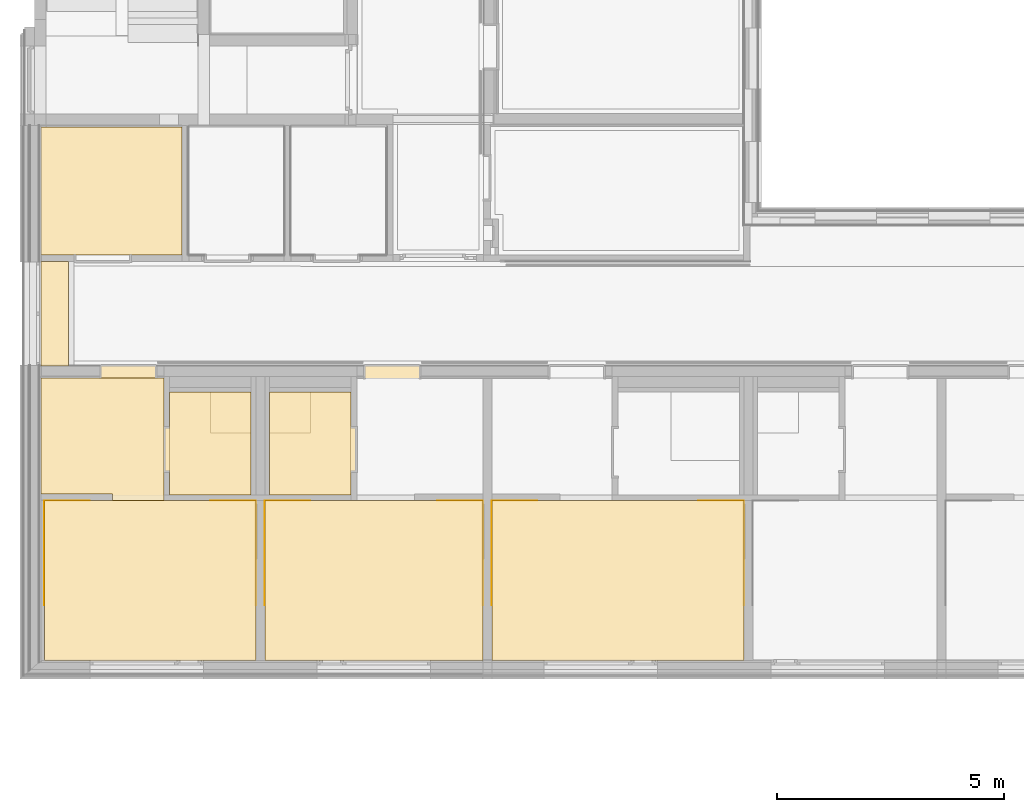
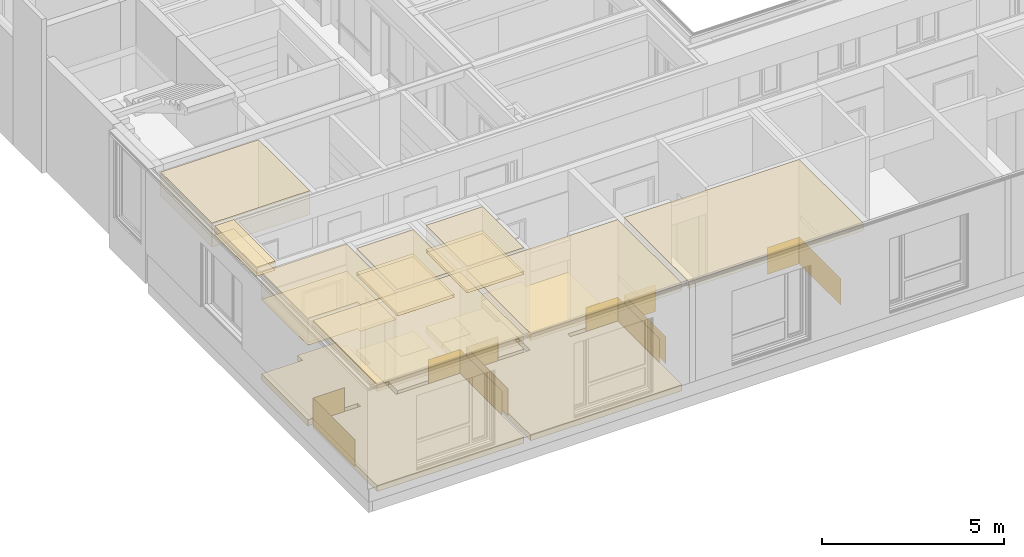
# One storey, part 158 of 207: 42 coverings.
"""IFC4 building model written with IfcOpenShell, lengths in metres."""

from ifc_helpers import new_model, entity, si_unit, converted_unit, derived_unit, frame, frame_2d, origin, origin_with_axes, place, context, subcontext, project, spatial, polyline, rectangle, outline, extrude, material, layer, layer_set, layer_usage, element, save


model = new_model("IFC4")

# Units and contexts
model_context = context("Model", 3, precision=1e-05, world=origin())
body_context = subcontext(model_context, "Body", "Model", "MODEL_VIEW")
ifc_project = project(units=[si_unit("LENGTHUNIT", "METRE"), si_unit("AREAUNIT", "SQUARE_METRE"), si_unit("VOLUMEUNIT", "CUBIC_METRE"), si_unit("MASSUNIT", "GRAM", prefix="KILO"), converted_unit("PLANEANGLEUNIT", "DEGREE", entity("IfcPlaneAngleMeasure", 0.0174532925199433), si_unit("PLANEANGLEUNIT", "RADIAN"), dimensions=[0, 0, 0, 0, 0, 0, 0]), derived_unit("THERMALTRANSMITTANCEUNIT", [(si_unit("POWERUNIT", "WATT"), 1), (si_unit("THERMODYNAMICTEMPERATUREUNIT", "KELVIN"), -1), (si_unit("LENGTHUNIT", "METRE"), -2)]), derived_unit("VOLUMETRICFLOWRATEUNIT", [(si_unit("LENGTHUNIT", "METRE"), 3), (converted_unit("TIMEUNIT", "hour", entity("IfcTimeMeasure", 3600.0), si_unit("TIMEUNIT", "SECOND"), dimensions=[0, 0, 1, 0, 0, 0, 0]), -1), (si_unit("LENGTHUNIT", "METRE"), -1)])], contexts=[model_context])

# Site, building, storey, space
site_placement = place(None, origin())
site = spatial("IfcSite", under=ifc_project, at=site_placement, Name="Psychiatrie Neubau Wunstorf", CompositionType="ELEMENT")
building_placement = place(site_placement, origin())
building = spatial("IfcBuilding", under=site, at=building_placement, Name="Neubau H2 Stationsgebäude", CompositionType="ELEMENT")
storey_placement = place(building_placement, frame((0.0, 0.0, -0.2)))
storey = spatial("IfcBuildingStorey", under=building, at=storey_placement, Name="H2 Ebene 0", CompositionType="ELEMENT", Elevation=-0.2)
space_1_placement = place(storey_placement, frame((0.169, 4.33074963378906, 0.0)))
space_1 = spatial("IfcSpace", under=storey, at=space_1_placement, Name="WUN-H2-E00-F04", CompositionType="ELEMENT")

# Coverings
ifc_material_1 = material()
ifc_layer_1 = layer(ifc_material_1, 0.036)
ifc_layer_set_1 = layer_set([ifc_layer_1])
ifc_layer_usage_1 = layer_usage(ifc_layer_set_1, "AXIS3", "POSITIVE", 0.0)
covering_1_placement = place(space_1_placement, frame((0.0, 0.0, 3.6)))
element("IfcCovering", 1, at=covering_1_placement, inside=space_1, material=ifc_layer_usage_1, Name="Gipsfaserplatten 2-lagig (BSK)", PredefinedType="CEILING", context=body_context, shape_type="SweptSolid", body=[
    extrude(rectangle(XDim=0.601, YDim=2.29425027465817, at=frame_2d((-0.3005, -1.14712513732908), x_axis=(-1.0, 1.51330233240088e-15))), frame((0.601, 0.0, 0.0), z_axis=(0.0, 0.0, -1.0), x_axis=(1.0, 0.0, 0.0)), (0.0, 0.0, 1.0), 0.036),
])
ifc_material_2 = material(Name="Installationshöhe")
ifc_layer_2 = layer(ifc_material_2, 0.164)
ifc_layer_set_2 = layer_set([ifc_layer_2])
ifc_layer_usage_2 = layer_usage(ifc_layer_set_2, "AXIS3", "POSITIVE", 0.0)
covering_2_placement = place(space_1_placement, frame((0.0, 0.0, 3.564)))
element("IfcCovering", 2, at=covering_2_placement, inside=space_1, material=ifc_layer_usage_2, Name="Gipsfaserplatten 2-lagig (BSK)", PredefinedType="CEILING", context=body_context, shape_type="SweptSolid", body=[
    extrude(rectangle(XDim=0.601, YDim=2.29425027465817, at=frame_2d((-0.3005, -1.14712513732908), x_axis=(-1.0, 1.51330233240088e-15))), frame((0.601, 0.0, 0.0), z_axis=(0.0, 0.0, -1.0), x_axis=(1.0, 0.0, 0.0)), (0.0, 0.0, 1.0), 0.164),
])
ifc_material_3 = material(Name="A1")
ifc_layer_3 = layer(ifc_material_3, 0.1)
ifc_layer_set_3 = layer_set([ifc_layer_3])
ifc_layer_usage_3 = layer_usage(ifc_layer_set_3, "AXIS3", "POSITIVE", 0.0)
covering_3_placement = place(space_1_placement, frame((0.0, 0.0, 3.4)))
element("IfcCovering", 3, at=covering_3_placement, inside=space_1, material=ifc_layer_usage_3, Name="Gipsfaserplatten 2-lagig (BSK)", PredefinedType="CEILING", context=body_context, shape_type="SweptSolid", body=[
    extrude(rectangle(XDim=0.601, YDim=2.29425027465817, at=frame_2d((-0.3005, -1.14712513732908), x_axis=(-1.0, 1.51330233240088e-15))), frame((0.601, 0.0, 0.0), z_axis=(0.0, 0.0, -1.0), x_axis=(1.0, 0.0, 0.0)), (0.0, 0.0, 1.0), 0.1),
])
ifc_material_4 = material(Name="D1")
ifc_layer_4 = layer(ifc_material_4, 0.001)
ifc_layer_set_4 = layer_set([ifc_layer_4])
ifc_layer_usage_4 = layer_usage(ifc_layer_set_4, "AXIS3", "POSITIVE", 0.0)
covering_4_placement = place(space_1_placement, frame((0.0, 0.0, 3.3)))
element("IfcCovering", 4, at=covering_4_placement, inside=space_1, material=ifc_layer_usage_4, Name="Gipsfaserplatten 2-lagig (BSK)", PredefinedType="CEILING", context=body_context, shape_type="SweptSolid", body=[
    extrude(rectangle(XDim=0.601, YDim=2.29425027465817, at=frame_2d((-0.3005, -1.14712513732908), x_axis=(-1.0, 1.51330233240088e-15))), frame((0.601, 0.0, 0.0), z_axis=(0.0, 0.0, -1.0), x_axis=(1.0, 0.0, 0.0)), (0.0, 0.0, 1.0), 0.001),
])

# Space
space_2_placement = place(storey_placement, frame((5.2, 1.48374963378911, 0.0)))
space_2 = spatial("IfcSpace", under=storey, at=space_2_placement, Name="WUN-H2-E00-024a", CompositionType="ELEMENT")

# Coverings
ifc_material_5 = material(Name="Fl1")
ifc_layer_5 = layer(ifc_material_5, 0.2)
ifc_layer_set_5 = layer_set([ifc_layer_5])
ifc_layer_usage_5 = layer_usage(ifc_layer_set_5, "AXIS3", "POSITIVE", 0.0)
covering_5_placement = place(space_2_placement, origin())
element("IfcCovering", 5, at=covering_5_placement, inside=space_2, material=ifc_layer_usage_5, Name="Fliesen", PredefinedType="FLOORING", context=body_context, shape_type="SweptSolid", body=[
    extrude(rectangle(XDim=0.125, YDim=1.01, at=frame_2d((-0.0625, -0.505), x_axis=(-1.0, 0.0))), frame((1.925, 1.50999999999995, 0.0), z_axis=(0.0, 0.0, 1.0), x_axis=(1.0, 0.0, 0.0)), (0.0, 0.0, 1.0), 0.2),
    extrude(outline(polyline([(0.0, 0.0), (1.8, 0.0), (1.8, 2.265), (0.90000000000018, 2.265), (0.90000000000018, 1.36499999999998), (0.0, 1.36499999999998), (0.0, 0.0)])), origin_with_axes(), (0.0, 0.0, 1.0), 0.2),
])
ifc_material_6 = material(Name="Fl2")
ifc_layer_6 = layer(ifc_material_6, 0.2)
ifc_layer_set_6 = layer_set([ifc_layer_6])
ifc_layer_usage_6 = layer_usage(ifc_layer_set_6, "AXIS3", "POSITIVE", 0.0)
covering_6_placement = place(space_2_placement, frame((0.0, 1.36499999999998, 0.0)))
element("IfcCovering", 6, at=covering_6_placement, inside=space_2, material=ifc_layer_usage_6, Name="Fliesen Mosaik", PredefinedType="FLOORING", context=body_context, shape_type="SweptSolid", body=[
    extrude(rectangle(XDim=0.899999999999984, YDim=0.90000000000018, at=frame_2d((0.45000000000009, -0.449999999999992), x_axis=(0.0, -1.0))), frame((0.0, 0.899999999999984, 0.0), z_axis=(0.0, 0.0, 1.0), x_axis=(1.0, 0.0, 0.0)), (0.0, 0.0, 1.0), 0.2),
])
ifc_material_7 = material()
ifc_layer_7 = layer(ifc_material_7, 0.036)
ifc_layer_set_7 = layer_set([ifc_layer_7])
ifc_layer_usage_7 = layer_usage(ifc_layer_set_7, "AXIS3", "POSITIVE", 0.0)
covering_7_placement = place(space_2_placement, frame((0.0, 0.0, 3.6)))
element("IfcCovering", 7, at=covering_7_placement, inside=space_2, material=ifc_layer_usage_7, Name="Gipsfaserplatten 2-lagig (BSK)", PredefinedType="CEILING", context=body_context, shape_type="SweptSolid", body=[
    extrude(rectangle(XDim=1.8, YDim=2.265, at=frame_2d((0.9, 1.1325), x_axis=(1.0, 0.0))), frame((0.0, 2.265, 0.0), z_axis=(0.0, 0.0, -1.0), x_axis=(1.0, 0.0, 0.0)), (0.0, 0.0, 1.0), 0.036),
])
ifc_material_8 = material(Name="Installationshöhe")
ifc_layer_8 = layer(ifc_material_8, 0.764)
ifc_layer_set_8 = layer_set([ifc_layer_8])
ifc_layer_usage_8 = layer_usage(ifc_layer_set_8, "AXIS3", "POSITIVE", 0.0)
covering_8_placement = place(space_2_placement, frame((0.0, 0.0, 3.564)))
element("IfcCovering", 8, at=covering_8_placement, inside=space_2, material=ifc_layer_usage_8, Name="Gipsfaserplatten 2-lagig (BSK)", PredefinedType="CEILING", context=body_context, shape_type="SweptSolid", body=[
    extrude(rectangle(XDim=1.8, YDim=2.265, at=frame_2d((0.9, 1.1325), x_axis=(1.0, 0.0))), frame((0.0, 2.265, 0.0), z_axis=(0.0, 0.0, -1.0), x_axis=(1.0, 0.0, 0.0)), (0.0, 0.0, 1.0), 0.764),
])
ifc_material_9 = material(Name="B")
ifc_layer_9 = layer(ifc_material_9, 0.1)
ifc_layer_set_9 = layer_set([ifc_layer_9])
ifc_layer_usage_9 = layer_usage(ifc_layer_set_9, "AXIS3", "POSITIVE", 0.0)
covering_9_placement = place(space_2_placement, frame((0.0, 0.0, 2.8)))
element("IfcCovering", 9, at=covering_9_placement, inside=space_2, material=ifc_layer_usage_9, Name="Gipskarton, imprägniert", PredefinedType="CEILING", context=body_context, shape_type="SweptSolid", body=[
    extrude(rectangle(XDim=1.8, YDim=2.265, at=frame_2d((0.9, 1.1325), x_axis=(1.0, 0.0))), frame((0.0, 2.265, 0.0), z_axis=(0.0, 0.0, -1.0), x_axis=(1.0, 0.0, 0.0)), (0.0, 0.0, 1.0), 0.1),
])
ifc_material_10 = material(Name="D1")
ifc_layer_10 = layer(ifc_material_10, 0.001)
ifc_layer_set_10 = layer_set([ifc_layer_10])
ifc_layer_usage_10 = layer_usage(ifc_layer_set_10, "AXIS3", "POSITIVE", 0.0)
covering_10_placement = place(space_2_placement, frame((0.0, 0.0, 2.7)))
element("IfcCovering", 10, at=covering_10_placement, inside=space_2, material=ifc_layer_usage_10, Name="Gipsfaserplatten 2-lagig (BSK)", PredefinedType="CEILING", context=body_context, shape_type="SweptSolid", body=[
    extrude(rectangle(XDim=1.8, YDim=2.265, at=frame_2d((0.9, 1.1325), x_axis=(1.0, 0.0))), frame((0.0, 2.265, 0.0), z_axis=(0.0, 0.0, -1.0), x_axis=(1.0, 0.0, 0.0)), (0.0, 0.0, 1.0), 0.001),
])

# Space
space_3_placement = place(storey_placement, frame((3.0, 1.48374963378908, 0.0)))
space_3 = spatial("IfcSpace", under=storey, at=space_3_placement, Name="WUN-H2-E00-025a", CompositionType="ELEMENT")

# Coverings
ifc_material_11 = material(Name="Fl1")
ifc_layer_11 = layer(ifc_material_11, 0.2)
ifc_layer_set_11 = layer_set([ifc_layer_11])
ifc_layer_usage_11 = layer_usage(ifc_layer_set_11, "AXIS3", "POSITIVE", 0.0)
covering_11_placement = place(space_3_placement, frame((-0.125, 0.0, 0.0)))
element("IfcCovering", 11, at=covering_11_placement, inside=space_3, material=ifc_layer_usage_11, Name="Fliesen", PredefinedType="FLOORING", context=body_context, shape_type="SweptSolid", body=[
    extrude(rectangle(XDim=0.125, YDim=1.01, at=frame_2d((0.0625, 0.505), x_axis=(1.0, 0.0))), frame((0.0, 0.49999999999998, 0.0), z_axis=(0.0, 0.0, 1.0), x_axis=(1.0, 0.0, 0.0)), (0.0, 0.0, 1.0), 0.2),
    extrude(outline(polyline([(0.0, 0.0), (1.8, 0.0), (1.8, 1.365), (0.89999999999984, 1.365), (0.89999999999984, 2.265), (0.0, 2.265), (0.0, 0.0)])), frame((0.125, 0.0, 0.0), z_axis=(0.0, 0.0, 1.0), x_axis=(1.0, 0.0, 0.0)), (0.0, 0.0, 1.0), 0.2),
])
ifc_material_12 = material(Name="Fl2")
ifc_layer_12 = layer(ifc_material_12, 0.2)
ifc_layer_set_12 = layer_set([ifc_layer_12])
ifc_layer_usage_12 = layer_usage(ifc_layer_set_12, "AXIS3", "POSITIVE", 0.0)
covering_12_placement = place(space_3_placement, frame((0.89999999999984, 1.365, 0.0)))
element("IfcCovering", 12, at=covering_12_placement, inside=space_3, material=ifc_layer_usage_12, Name="Fliesen Mosaik", PredefinedType="FLOORING", context=body_context, shape_type="SweptSolid", body=[
    extrude(rectangle(XDim=0.9, YDim=0.9, at=frame_2d((0.45, -0.45), x_axis=(0.0, -1.0))), frame((0.0, 0.9, 0.0), z_axis=(0.0, 0.0, 1.0), x_axis=(1.0, 0.0, 0.0)), (0.0, 0.0, 1.0), 0.2),
])
ifc_material_13 = material()
ifc_layer_13 = layer(ifc_material_13, 0.036)
ifc_layer_set_13 = layer_set([ifc_layer_13])
ifc_layer_usage_13 = layer_usage(ifc_layer_set_13, "AXIS3", "POSITIVE", 0.0)
covering_13_placement = place(space_3_placement, frame((0.0, 0.0, 3.6)))
element("IfcCovering", 13, at=covering_13_placement, inside=space_3, material=ifc_layer_usage_13, Name="Gipsfaserplatten 2-lagig (BSK)", PredefinedType="CEILING", context=body_context, shape_type="SweptSolid", body=[
    extrude(rectangle(XDim=2.265, YDim=1.8, at=frame_2d((0.9, -1.1325), x_axis=(0.0, -1.0))), frame((0.0, 0.0, 0.0), z_axis=(0.0, 0.0, -1.0), x_axis=(1.0, 0.0, 0.0)), (0.0, 0.0, 1.0), 0.036),
])
ifc_material_14 = material(Name="Installationshöhe")
ifc_layer_14 = layer(ifc_material_14, 0.764)
ifc_layer_set_14 = layer_set([ifc_layer_14])
ifc_layer_usage_14 = layer_usage(ifc_layer_set_14, "AXIS3", "POSITIVE", 0.0)
covering_14_placement = place(space_3_placement, frame((0.0, 0.0, 3.564)))
element("IfcCovering", 14, at=covering_14_placement, inside=space_3, material=ifc_layer_usage_14, Name="Gipsfaserplatten 2-lagig (BSK)", PredefinedType="CEILING", context=body_context, shape_type="SweptSolid", body=[
    extrude(rectangle(XDim=2.265, YDim=1.8, at=frame_2d((0.9, -1.1325), x_axis=(0.0, -1.0))), frame((0.0, 0.0, 0.0), z_axis=(0.0, 0.0, -1.0), x_axis=(1.0, 0.0, 0.0)), (0.0, 0.0, 1.0), 0.764),
])
ifc_material_15 = material(Name="B")
ifc_layer_15 = layer(ifc_material_15, 0.1)
ifc_layer_set_15 = layer_set([ifc_layer_15])
ifc_layer_usage_15 = layer_usage(ifc_layer_set_15, "AXIS3", "POSITIVE", 0.0)
covering_15_placement = place(space_3_placement, frame((0.0, 0.0, 2.8)))
element("IfcCovering", 15, at=covering_15_placement, inside=space_3, material=ifc_layer_usage_15, Name="Gipskarton, imprägniert", PredefinedType="CEILING", context=body_context, shape_type="SweptSolid", body=[
    extrude(rectangle(XDim=2.265, YDim=1.8, at=frame_2d((0.9, -1.1325), x_axis=(0.0, -1.0))), frame((0.0, 0.0, 0.0), z_axis=(0.0, 0.0, -1.0), x_axis=(1.0, 0.0, 0.0)), (0.0, 0.0, 1.0), 0.1),
])
ifc_material_16 = material(Name="D1")
ifc_layer_16 = layer(ifc_material_16, 0.001)
ifc_layer_set_16 = layer_set([ifc_layer_16])
ifc_layer_usage_16 = layer_usage(ifc_layer_set_16, "AXIS3", "POSITIVE", 0.0)
covering_16_placement = place(space_3_placement, frame((0.0, 0.0, 2.7)))
element("IfcCovering", 16, at=covering_16_placement, inside=space_3, material=ifc_layer_usage_16, Name="Gipsfaserplatten 2-lagig (BSK)", PredefinedType="CEILING", context=body_context, shape_type="SweptSolid", body=[
    extrude(rectangle(XDim=2.265, YDim=1.8, at=frame_2d((0.9, -1.1325), x_axis=(0.0, -1.0))), frame((0.0, 0.0, 0.0), z_axis=(0.0, 0.0, -1.0), x_axis=(1.0, 0.0, 0.0)), (0.0, 0.0, 1.0), 0.001),
])

# Space
space_4_placement = place(storey_placement, frame((0.168999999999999, 6.77499990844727, 0.0)))
space_4 = spatial("IfcSpace", under=storey, at=space_4_placement, Name="WUN-H2-E00-026", CompositionType="ELEMENT")

# Coverings
ifc_material_17 = material()
ifc_layer_17 = layer(ifc_material_17, 0.036)
ifc_layer_set_17 = layer_set([ifc_layer_17])
ifc_layer_usage_17 = layer_usage(ifc_layer_set_17, "AXIS3", "POSITIVE", 0.0)
covering_17_placement = place(space_4_placement, frame((0.0, 0.0, 3.6)))
element("IfcCovering", 17, at=covering_17_placement, inside=space_4, material=ifc_layer_usage_17, Name="Gipsfaserplatten 2-lagig (BSK)", PredefinedType="CEILING", context=body_context, shape_type="SweptSolid", body=[
    extrude(rectangle(XDim=3.106, YDim=2.8199999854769, at=frame_2d((-1.553, -1.40999999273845), x_axis=(-1.0, 0.0))), frame((3.106, 0.0, 0.0), z_axis=(0.0, 0.0, -1.0), x_axis=(1.0, 0.0, 0.0)), (0.0, 0.0, 1.0), 0.036),
])
ifc_material_18 = material(Name="Installationshöhe")
ifc_layer_18 = layer(ifc_material_18, 0.764)
ifc_layer_set_18 = layer_set([ifc_layer_18])
ifc_layer_usage_18 = layer_usage(ifc_layer_set_18, "AXIS3", "POSITIVE", 0.0)
covering_18_placement = place(space_4_placement, frame((0.0, 0.0, 3.564)))
element("IfcCovering", 18, at=covering_18_placement, inside=space_4, material=ifc_layer_usage_18, Name="Gipsfaserplatten 2-lagig (BSK)", PredefinedType="CEILING", context=body_context, shape_type="SweptSolid", body=[
    extrude(rectangle(XDim=3.106, YDim=2.8199999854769, at=frame_2d((-1.553, -1.40999999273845), x_axis=(-1.0, 0.0))), frame((3.106, 0.0, 0.0), z_axis=(0.0, 0.0, -1.0), x_axis=(1.0, 0.0, 0.0)), (0.0, 0.0, 1.0), 0.764),
])

# Space
space_5_placement = place(storey_placement, frame((0.168999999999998, -2.16399999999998, 0.0)))
space_5 = spatial("IfcSpace", under=storey, at=space_5_placement, Name="WUN-H2-E00-025", CompositionType="ELEMENT")

# Coverings
ifc_material_19 = material(Name="84")
ifc_layer_19 = layer(ifc_material_19, 0.001)
ifc_layer_set_19 = layer_set([ifc_layer_19])
ifc_layer_usage_19 = layer_usage(ifc_layer_set_19, "AXIS3", "POSITIVE", 0.0)
covering_19_placement = place(space_5_placement, frame((0.074999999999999, 1.22274963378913, 0.1)))
element("IfcCovering", 19, at=covering_19_placement, inside=space_5, material=ifc_layer_usage_19, Name="Acrobyn", PredefinedType="CLADDING", context=body_context, shape_type="SweptSolid", body=[
    extrude(rectangle(XDim=1.0, YDim=0.9, at=frame_2d((0.5, -0.45), x_axis=(1.0, 0.0))), frame((1.0, 2.3, 0.0), z_axis=(0.0, -1.0, 0.0), x_axis=(-1.0, 0.0, 0.0)), (0.0, 0.0, 1.0), 0.001),
    extrude(rectangle(XDim=2.3, YDim=0.9, at=frame_2d((1.15, -0.45), x_axis=(1.0, 0.0))), frame((0.0, 2.3, 0.0), z_axis=(1.0, 0.0, 0.0), x_axis=(0.0, -1.0, 0.0)), (0.0, 0.0, 1.0), 0.001),
])
ifc_material_20 = material(Name="84")
ifc_layer_20 = layer(ifc_material_20, 0.001)
ifc_layer_set_20 = layer_set([ifc_layer_20])
ifc_layer_usage_20 = layer_usage(ifc_layer_set_20, "AXIS3", "POSITIVE", 0.0)
covering_20_placement = place(space_5_placement, frame((3.731, 1.22274957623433, 0.1)))
element("IfcCovering", 20, at=covering_20_placement, inside=space_5, material=ifc_layer_usage_20, Name="Acrobyn", PredefinedType="CLADDING", context=body_context, shape_type="SweptSolid", body=[
    extrude(rectangle(XDim=0.9, YDim=1.0, at=frame_2d((-0.5, -0.45), x_axis=(0.0, -1.0))), frame((0.0, 2.3, 0.0), z_axis=(4.54747350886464e-16, -1.0, 0.0), x_axis=(-1.0, -4.54747350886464e-16, 0.0)), (0.0, 0.0, 1.0), 0.001),
    extrude(rectangle(XDim=0.9, YDim=2.3, at=frame_2d((-1.15, -0.45), x_axis=(0.0, -1.0))), frame((1.0, 2.3, 0.0), z_axis=(-1.0, 0.0, 0.0), x_axis=(0.0, 1.0, 0.0)), (0.0, 0.0, 1.0), 0.001),
])
ifc_material_21 = material(Name="Ku1")
ifc_layer_21 = layer(ifc_material_21, 0.2)
ifc_layer_set_21 = layer_set([ifc_layer_21])
ifc_layer_usage_21 = layer_usage(ifc_layer_set_21, "AXIS3", "POSITIVE", 0.0)
covering_21_placement = place(space_5_placement, origin())
element("IfcCovering", 21, at=covering_21_placement, inside=space_5, material=ifc_layer_usage_21, Name="PVC Bahnenware Holzoptik", PredefinedType="FLOORING", context=body_context, shape_type="SweptSolid", body=[
    extrude(rectangle(XDim=0.271499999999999, YDim=1.26, at=frame_2d((-0.63, 0.13575), x_axis=(0.0, 1.0))), frame((2.556, 6.22324963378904, 0.0), z_axis=(0.0, 0.0, 1.0), x_axis=(1.0, 0.0, 0.0)), (0.0, 0.0, 1.0), 0.2),
    extrude(outline(polyline([(1.575, 3.52274963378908), (0.0749999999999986, 3.52274963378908), (0.0749999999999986, 0.0), (4.731, 0.0), (4.731, 3.52274963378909), (2.706, 3.52274963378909), (2.706, 6.22324963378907), (0.0, 6.22324963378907), (0.0, 3.67274963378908), (1.575, 3.67274963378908), (1.575, 3.52274963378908)])), origin_with_axes(), (0.0, 0.0, 1.0), 0.2),
])
ifc_material_22 = material()
ifc_layer_22 = layer(ifc_material_22, 0.036)
ifc_layer_set_22 = layer_set([ifc_layer_22])
ifc_layer_usage_22 = layer_usage(ifc_layer_set_22, "AXIS3", "POSITIVE", 0.0)
covering_22_placement = place(space_5_placement, frame((0.0, 3.52274963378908, 3.6)))
element("IfcCovering", 22, at=covering_22_placement, inside=space_5, material=ifc_layer_usage_22, Name="Gipsfaserplatten 2-lagig (BSK)", PredefinedType="CEILING", context=body_context, shape_type="SweptSolid", body=[
    extrude(outline(polyline([(1.575, 2.70049999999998), (1.575, 2.55049999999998), (0.0, 2.55049999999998), (0.0, 0.0), (2.706, 0.0), (2.706, 2.70049999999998), (1.575, 2.70049999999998)])), frame((0.0, 2.70049999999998, 0.0), z_axis=(0.0, 0.0, -1.0), x_axis=(1.0, 0.0, 0.0)), (0.0, 0.0, 1.0), 0.036),
])
ifc_material_23 = material(Name="Installationshöhe")
ifc_layer_23 = layer(ifc_material_23, 0.764)
ifc_layer_set_23 = layer_set([ifc_layer_23])
ifc_layer_usage_23 = layer_usage(ifc_layer_set_23, "AXIS3", "POSITIVE", 0.0)
covering_23_placement = place(space_5_placement, frame((0.0, 3.52274963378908, 3.564)))
element("IfcCovering", 23, at=covering_23_placement, inside=space_5, material=ifc_layer_usage_23, Name="Gipsfaserplatten 2-lagig (BSK)", PredefinedType="CEILING", context=body_context, shape_type="SweptSolid", body=[
    extrude(outline(polyline([(1.575, 2.70049999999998), (1.575, 2.55049999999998), (0.0, 2.55049999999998), (0.0, 0.0), (2.706, 0.0), (2.706, 2.70049999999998), (1.575, 2.70049999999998)])), frame((0.0, 2.70049999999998, 0.0), z_axis=(0.0, 0.0, -1.0), x_axis=(1.0, 0.0, 0.0)), (0.0, 0.0, 1.0), 0.764),
])
ifc_material_24 = material(Name="A1")
ifc_layer_24 = layer(ifc_material_24, 0.1)
ifc_layer_set_24 = layer_set([ifc_layer_24])
ifc_layer_usage_24 = layer_usage(ifc_layer_set_24, "AXIS3", "POSITIVE", 0.0)
covering_24_placement = place(space_5_placement, frame((0.0, 3.52274963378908, 2.8)))
element("IfcCovering", 24, at=covering_24_placement, inside=space_5, material=ifc_layer_usage_24, Name="Gipsfaserplatten 2-lagig (BSK)", PredefinedType="CEILING", context=body_context, shape_type="SweptSolid", body=[
    extrude(outline(polyline([(1.575, 2.70049999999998), (1.575, 2.55049999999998), (0.0, 2.55049999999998), (0.0, 0.0), (2.706, 0.0), (2.706, 2.70049999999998), (1.575, 2.70049999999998)])), frame((0.0, 2.70049999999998, 0.0), z_axis=(0.0, 0.0, -1.0), x_axis=(1.0, 0.0, 0.0)), (0.0, 0.0, 1.0), 0.1),
])
ifc_material_25 = material(Name="D1")
ifc_layer_25 = layer(ifc_material_25, 0.001)
ifc_layer_set_25 = layer_set([ifc_layer_25])
ifc_layer_usage_25 = layer_usage(ifc_layer_set_25, "AXIS3", "POSITIVE", 0.0)
covering_25_placement = place(space_5_placement, frame((0.0, 3.52274963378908, 2.7)))
element("IfcCovering", 25, at=covering_25_placement, inside=space_5, material=ifc_layer_usage_25, Name="Gipsfaserplatten 2-lagig (BSK)", PredefinedType="CEILING", context=body_context, shape_type="SweptSolid", body=[
    extrude(outline(polyline([(1.575, 2.70049999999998), (1.575, 2.55049999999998), (0.0, 2.55049999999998), (0.0, 0.0), (2.706, 0.0), (2.706, 2.70049999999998), (1.575, 2.70049999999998)])), frame((0.0, 2.70049999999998, 0.0), z_axis=(0.0, 0.0, -1.0), x_axis=(1.0, 0.0, 0.0)), (0.0, 0.0, 1.0), 0.001),
])
ifc_material_26 = material()
ifc_layer_26 = layer(ifc_material_26, 0.036)
ifc_layer_set_26 = layer_set([ifc_layer_26])
ifc_layer_usage_26 = layer_usage(ifc_layer_set_26, "AXIS3", "POSITIVE", 0.0)
covering_26_placement = place(space_5_placement, frame((0.074999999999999, 0.0, 3.6)))
element("IfcCovering", 26, at=covering_26_placement, inside=space_5, material=ifc_layer_usage_26, Name="Gipsfaserplatten 2-lagig (BSK)", PredefinedType="CEILING", context=body_context, shape_type="SweptSolid", body=[
    extrude(rectangle(XDim=4.656, YDim=3.52274963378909, at=frame_2d((2.328, 1.76137481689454), x_axis=(1.0, -2.24638940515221e-15))), frame((0.0, 3.52274963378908, 0.0), z_axis=(0.0, 0.0, -1.0), x_axis=(1.0, 0.0, 0.0)), (0.0, 0.0, 1.0), 0.036),
])
ifc_material_27 = material(Name="Installationshöhe")
ifc_layer_27 = layer(ifc_material_27, 0.114)
ifc_layer_set_27 = layer_set([ifc_layer_27])
ifc_layer_usage_27 = layer_usage(ifc_layer_set_27, "AXIS3", "POSITIVE", 0.0)
covering_27_placement = place(space_5_placement, frame((0.074999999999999, 0.0, 3.564)))
element("IfcCovering", 27, at=covering_27_placement, inside=space_5, material=ifc_layer_usage_27, Name="Gipsfaserplatten 2-lagig (BSK)", PredefinedType="CEILING", context=body_context, shape_type="SweptSolid", body=[
    extrude(rectangle(XDim=4.656, YDim=3.52274963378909, at=frame_2d((2.328, 1.76137481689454), x_axis=(1.0, -2.24638940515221e-15))), frame((0.0, 3.52274963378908, 0.0), z_axis=(0.0, 0.0, -1.0), x_axis=(1.0, 0.0, 0.0)), (0.0, 0.0, 1.0), 0.114),
])
ifc_material_28 = material(Name="A1")
ifc_layer_28 = layer(ifc_material_28, 0.1)
ifc_layer_set_28 = layer_set([ifc_layer_28])
ifc_layer_usage_28 = layer_usage(ifc_layer_set_28, "AXIS3", "POSITIVE", 0.0)
covering_28_placement = place(space_5_placement, frame((0.074999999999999, 0.0, 3.45)))
element("IfcCovering", 28, at=covering_28_placement, inside=space_5, material=ifc_layer_usage_28, Name="Gipsfaserplatten 2-lagig (BSK)", PredefinedType="CEILING", context=body_context, shape_type="SweptSolid", body=[
    extrude(rectangle(XDim=4.656, YDim=3.52274963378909, at=frame_2d((2.328, 1.76137481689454), x_axis=(1.0, -2.24638940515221e-15))), frame((0.0, 3.52274963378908, 0.0), z_axis=(0.0, 0.0, -1.0), x_axis=(1.0, 0.0, 0.0)), (0.0, 0.0, 1.0), 0.1),
])
ifc_material_29 = material(Name="D1")
ifc_layer_29 = layer(ifc_material_29, 0.001)
ifc_layer_set_29 = layer_set([ifc_layer_29])
ifc_layer_usage_29 = layer_usage(ifc_layer_set_29, "AXIS3", "POSITIVE", 0.0)
covering_29_placement = place(space_5_placement, frame((0.074999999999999, 0.0, 3.35)))
element("IfcCovering", 29, at=covering_29_placement, inside=space_5, material=ifc_layer_usage_29, Name="Gipsfaserplatten 2-lagig (BSK)", PredefinedType="CEILING", context=body_context, shape_type="SweptSolid", body=[
    extrude(rectangle(XDim=4.656, YDim=3.52274963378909, at=frame_2d((2.328, 1.76137481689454), x_axis=(1.0, -2.24638940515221e-15))), frame((0.0, 3.52274963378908, 0.0), z_axis=(0.0, 0.0, -1.0), x_axis=(1.0, 0.0, 0.0)), (0.0, 0.0, 1.0), 0.001),
])

# Space
space_6_placement = place(storey_placement, frame((5.1, -2.16399999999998, 0.0)))
space_6 = spatial("IfcSpace", under=storey, at=space_6_placement, Name="WUN-H2-E00-024", CompositionType="ELEMENT")

# Coverings
ifc_material_30 = material(Name="84")
ifc_layer_30 = layer(ifc_material_30, 0.001)
ifc_layer_set_30 = layer_set([ifc_layer_30])
ifc_layer_usage_30 = layer_usage(ifc_layer_set_30, "AXIS3", "POSITIVE", 0.0)
covering_30_placement = place(space_6_placement, frame((0.0, 1.22274963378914, 0.1)))
element("IfcCovering", 30, at=covering_30_placement, inside=space_6, material=ifc_layer_usage_30, Name="Acrobyn", PredefinedType="CLADDING", context=body_context, shape_type="SweptSolid", body=[
    extrude(rectangle(XDim=1.0, YDim=0.9, at=frame_2d((0.5, -0.45), x_axis=(1.0, 0.0))), frame((1.0, 2.3, 0.0), z_axis=(0.0, -1.0, 0.0), x_axis=(-1.0, 0.0, 0.0)), (0.0, 0.0, 1.0), 0.001),
    extrude(rectangle(XDim=2.3, YDim=0.9, at=frame_2d((1.15, -0.45), x_axis=(1.0, 0.0))), frame((0.0, 2.3, 0.0), z_axis=(1.0, 0.0, 0.0), x_axis=(0.0, -1.0, 0.0)), (0.0, 0.0, 1.0), 0.001),
])
ifc_material_31 = material(Name="84")
ifc_layer_31 = layer(ifc_material_31, 0.001)
ifc_layer_set_31 = layer_set([ifc_layer_31])
ifc_layer_usage_31 = layer_usage(ifc_layer_set_31, "AXIS3", "POSITIVE", 0.0)
covering_31_placement = place(space_6_placement, frame((3.8, 1.22274957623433, 0.1)))
element("IfcCovering", 31, at=covering_31_placement, inside=space_6, material=ifc_layer_usage_31, Name="Acrobyn", PredefinedType="CLADDING", context=body_context, shape_type="SweptSolid", body=[
    extrude(rectangle(XDim=0.9, YDim=1.0, at=frame_2d((-0.5, -0.45), x_axis=(0.0, -1.0))), frame((0.0, 2.3, 0.0), z_axis=(4.54747350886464e-16, -1.0, 0.0), x_axis=(-1.0, -4.54747350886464e-16, 0.0)), (0.0, 0.0, 1.0), 0.001),
    extrude(rectangle(XDim=0.9, YDim=2.3, at=frame_2d((-1.15, -0.45), x_axis=(0.0, -1.0))), frame((1.0, 2.3, 0.0), z_axis=(-1.0, 0.0, 0.0), x_axis=(0.0, 1.0, 0.0)), (0.0, 0.0, 1.0), 0.001),
])
ifc_material_32 = material(Name="Ku1")
ifc_layer_32 = layer(ifc_material_32, 0.2)
ifc_layer_set_32 = layer_set([ifc_layer_32])
ifc_layer_usage_32 = layer_usage(ifc_layer_set_32, "AXIS3", "POSITIVE", 0.0)
covering_32_placement = place(space_6_placement, origin())
element("IfcCovering", 32, at=covering_32_placement, inside=space_6, material=ifc_layer_usage_32, Name="PVC Bahnenware Holzoptik", PredefinedType="FLOORING", context=body_context, shape_type="SweptSolid", body=[
    extrude(rectangle(XDim=0.271499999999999, YDim=1.26, at=frame_2d((-0.63, 0.13575), x_axis=(0.0, 1.0))), frame((3.435, 6.22324963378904, 0.0), z_axis=(0.0, 0.0, 1.0), x_axis=(1.0, 0.0, 0.0)), (0.0, 0.0, 1.0), 0.2),
    extrude(outline(polyline([(3.3, 3.67274963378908), (4.8, 3.67274963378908), (4.8, 6.22324963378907), (2.025, 6.22324963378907), (2.025, 3.52274963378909), (0.0, 3.52274963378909), (0.0, 0.0), (4.8, 0.0), (4.8, 3.52274963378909), (3.29999999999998, 3.52274963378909), (3.3, 3.67274963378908)])), origin_with_axes(), (0.0, 0.0, 1.0), 0.2),
])
ifc_material_33 = material()
ifc_layer_33 = layer(ifc_material_33, 0.036)
ifc_layer_set_33 = layer_set([ifc_layer_33])
ifc_layer_usage_33 = layer_usage(ifc_layer_set_33, "AXIS3", "POSITIVE", 0.0)
covering_33_placement = place(space_6_placement, frame((0.0, 0.0, 3.6)))
element("IfcCovering", 33, at=covering_33_placement, inside=space_6, material=ifc_layer_usage_33, Name="Gipsfaserplatten 2-lagig (BSK)", PredefinedType="CEILING", context=body_context, shape_type="SweptSolid", body=[
    extrude(rectangle(XDim=3.52274963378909, YDim=4.8, at=frame_2d((-2.4, 1.76137481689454), x_axis=(0.0, 1.0))), frame((4.8, 3.52274963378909, 0.0), z_axis=(0.0, 0.0, -1.0), x_axis=(1.0, 0.0, 0.0)), (0.0, 0.0, 1.0), 0.036),
])
ifc_material_34 = material(Name="Installationshöhe")
ifc_layer_34 = layer(ifc_material_34, 0.114)
ifc_layer_set_34 = layer_set([ifc_layer_34])
ifc_layer_usage_34 = layer_usage(ifc_layer_set_34, "AXIS3", "POSITIVE", 0.0)
covering_34_placement = place(space_6_placement, frame((0.0, 0.0, 3.564)))
element("IfcCovering", 34, at=covering_34_placement, inside=space_6, material=ifc_layer_usage_34, Name="Gipsfaserplatten 2-lagig (BSK)", PredefinedType="CEILING", context=body_context, shape_type="SweptSolid", body=[
    extrude(rectangle(XDim=3.52274963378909, YDim=4.8, at=frame_2d((-2.4, 1.76137481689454), x_axis=(0.0, 1.0))), frame((4.8, 3.52274963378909, 0.0), z_axis=(0.0, 0.0, -1.0), x_axis=(1.0, 0.0, 0.0)), (0.0, 0.0, 1.0), 0.114),
])
ifc_material_35 = material(Name="A1")
ifc_layer_35 = layer(ifc_material_35, 0.1)
ifc_layer_set_35 = layer_set([ifc_layer_35])
ifc_layer_usage_35 = layer_usage(ifc_layer_set_35, "AXIS3", "POSITIVE", 0.0)
covering_35_placement = place(space_6_placement, frame((0.0, 0.0, 3.45)))
element("IfcCovering", 35, at=covering_35_placement, inside=space_6, material=ifc_layer_usage_35, Name="Gipsfaserplatten 2-lagig (BSK)", PredefinedType="CEILING", context=body_context, shape_type="SweptSolid", body=[
    extrude(rectangle(XDim=3.52274963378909, YDim=4.8, at=frame_2d((-2.4, 1.76137481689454), x_axis=(0.0, 1.0))), frame((4.8, 3.52274963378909, 0.0), z_axis=(0.0, 0.0, -1.0), x_axis=(1.0, 0.0, 0.0)), (0.0, 0.0, 1.0), 0.1),
])
ifc_material_36 = material(Name="D1")
ifc_layer_36 = layer(ifc_material_36, 0.001)
ifc_layer_set_36 = layer_set([ifc_layer_36])
ifc_layer_usage_36 = layer_usage(ifc_layer_set_36, "AXIS3", "POSITIVE", 0.0)
covering_36_placement = place(space_6_placement, frame((0.0, 0.0, 3.35)))
element("IfcCovering", 36, at=covering_36_placement, inside=space_6, material=ifc_layer_usage_36, Name="Gipsfaserplatten 2-lagig (BSK)", PredefinedType="CEILING", context=body_context, shape_type="SweptSolid", body=[
    extrude(rectangle(XDim=3.52274963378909, YDim=4.8, at=frame_2d((-2.4, 1.76137481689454), x_axis=(0.0, 1.0))), frame((4.8, 3.52274963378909, 0.0), z_axis=(0.0, 0.0, -1.0), x_axis=(1.0, 0.0, 0.0)), (0.0, 0.0, 1.0), 0.001),
])

# Space
space_7_placement = place(storey_placement, frame((10.1, -2.16399999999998, 0.0)))
space_7 = spatial("IfcSpace", under=storey, at=space_7_placement, Name="WUN-H2-E00-023", CompositionType="ELEMENT")

# Coverings
ifc_material_37 = material(Name="84")
ifc_layer_37 = layer(ifc_material_37, 0.001)
ifc_layer_set_37 = layer_set([ifc_layer_37])
ifc_layer_usage_37 = layer_usage(ifc_layer_set_37, "AXIS3", "POSITIVE", 0.0)
covering_37_placement = place(space_7_placement, frame((0.0, 1.22274963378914, 0.1)))
element("IfcCovering", 37, at=covering_37_placement, inside=space_7, material=ifc_layer_usage_37, Name="Acrobyn", PredefinedType="CLADDING", context=body_context, shape_type="SweptSolid", body=[
    extrude(rectangle(XDim=1.0, YDim=0.9, at=frame_2d((0.5, -0.45), x_axis=(1.0, 0.0))), frame((1.0, 2.3, 0.0), z_axis=(0.0, -1.0, 0.0), x_axis=(-1.0, 0.0, 0.0)), (0.0, 0.0, 1.0), 0.001),
    extrude(rectangle(XDim=2.3, YDim=0.9, at=frame_2d((1.15, -0.45), x_axis=(1.0, 0.0))), frame((0.0, 2.3, 0.0), z_axis=(1.0, 0.0, 0.0), x_axis=(0.0, -1.0, 0.0)), (0.0, 0.0, 1.0), 0.001),
])
ifc_material_38 = material(Name="84")
ifc_layer_38 = layer(ifc_material_38, 0.001)
ifc_layer_set_38 = layer_set([ifc_layer_38])
ifc_layer_usage_38 = layer_usage(ifc_layer_set_38, "AXIS3", "POSITIVE", 0.0)
covering_38_placement = place(space_7_placement, frame((4.55, 1.22274957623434, 0.1)))
element("IfcCovering", 38, at=covering_38_placement, inside=space_7, material=ifc_layer_usage_38, Name="Acrobyn", PredefinedType="CLADDING", context=body_context, shape_type="SweptSolid", body=[
    extrude(rectangle(XDim=0.9, YDim=1.0, at=frame_2d((-0.5, -0.45), x_axis=(0.0, -1.0))), frame((0.0, 2.3, 0.0), z_axis=(4.54747350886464e-16, -1.0, 0.0), x_axis=(-1.0, -4.54747350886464e-16, 0.0)), (0.0, 0.0, 1.0), 0.001),
    extrude(rectangle(XDim=0.9, YDim=2.3, at=frame_2d((-1.15, -0.45), x_axis=(0.0, -1.0))), frame((1.0, 2.3, 0.0), z_axis=(-1.0, 0.0, 0.0), x_axis=(0.0, 1.0, 0.0)), (0.0, 0.0, 1.0), 0.001),
])
ifc_material_39 = material()
ifc_layer_39 = layer(ifc_material_39, 0.036)
ifc_layer_set_39 = layer_set([ifc_layer_39])
ifc_layer_usage_39 = layer_usage(ifc_layer_set_39, "AXIS3", "POSITIVE", 0.0)
covering_39_placement = place(space_7_placement, frame((0.0, 0.0, 3.6)))
element("IfcCovering", 39, at=covering_39_placement, inside=space_7, material=ifc_layer_usage_39, Name="Gipsfaserplatten 2-lagig (BSK)", PredefinedType="CEILING", context=body_context, shape_type="SweptSolid", body=[
    extrude(rectangle(XDim=5.55, YDim=3.52274963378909, at=frame_2d((2.775, 1.76137481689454), x_axis=(1.0, -1.27001512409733e-15))), frame((0.0, 3.52274963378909, 0.0), z_axis=(0.0, 0.0, -1.0), x_axis=(1.0, 0.0, 0.0)), (0.0, 0.0, 1.0), 0.036),
])
ifc_material_40 = material(Name="Installationshöhe")
ifc_layer_40 = layer(ifc_material_40, 0.114)
ifc_layer_set_40 = layer_set([ifc_layer_40])
ifc_layer_usage_40 = layer_usage(ifc_layer_set_40, "AXIS3", "POSITIVE", 0.0)
covering_40_placement = place(space_7_placement, frame((0.0, 0.0, 3.564)))
element("IfcCovering", 40, at=covering_40_placement, inside=space_7, material=ifc_layer_usage_40, Name="Gipsfaserplatten 2-lagig (BSK)", PredefinedType="CEILING", context=body_context, shape_type="SweptSolid", body=[
    extrude(rectangle(XDim=5.55, YDim=3.52274963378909, at=frame_2d((2.775, 1.76137481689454), x_axis=(1.0, -1.27001512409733e-15))), frame((0.0, 3.52274963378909, 0.0), z_axis=(0.0, 0.0, -1.0), x_axis=(1.0, 0.0, 0.0)), (0.0, 0.0, 1.0), 0.114),
])
ifc_material_41 = material(Name="A1")
ifc_layer_41 = layer(ifc_material_41, 0.1)
ifc_layer_set_41 = layer_set([ifc_layer_41])
ifc_layer_usage_41 = layer_usage(ifc_layer_set_41, "AXIS3", "POSITIVE", 0.0)
covering_41_placement = place(space_7_placement, frame((0.0, 0.0, 3.45)))
element("IfcCovering", 41, at=covering_41_placement, inside=space_7, material=ifc_layer_usage_41, Name="Gipsfaserplatten 2-lagig (BSK)", PredefinedType="CEILING", context=body_context, shape_type="SweptSolid", body=[
    extrude(rectangle(XDim=5.55, YDim=3.52274963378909, at=frame_2d((2.775, 1.76137481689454), x_axis=(1.0, -1.27001512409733e-15))), frame((0.0, 3.52274963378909, 0.0), z_axis=(0.0, 0.0, -1.0), x_axis=(1.0, 0.0, 0.0)), (0.0, 0.0, 1.0), 0.1),
])
ifc_material_42 = material(Name="D1")
ifc_layer_42 = layer(ifc_material_42, 0.001)
ifc_layer_set_42 = layer_set([ifc_layer_42])
ifc_layer_usage_42 = layer_usage(ifc_layer_set_42, "AXIS3", "POSITIVE", 0.0)
covering_42_placement = place(space_7_placement, frame((0.0, 0.0, 3.35)))
element("IfcCovering", 42, at=covering_42_placement, inside=space_7, material=ifc_layer_usage_42, Name="Gipsfaserplatten 2-lagig (BSK)", PredefinedType="CEILING", context=body_context, shape_type="SweptSolid", body=[
    extrude(rectangle(XDim=5.55, YDim=3.52274963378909, at=frame_2d((2.775, 1.76137481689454), x_axis=(1.0, -1.27001512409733e-15))), frame((0.0, 3.52274963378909, 0.0), z_axis=(0.0, 0.0, -1.0), x_axis=(1.0, 0.0, 0.0)), (0.0, 0.0, 1.0), 0.001),
])

save(model, "model.ifc")
